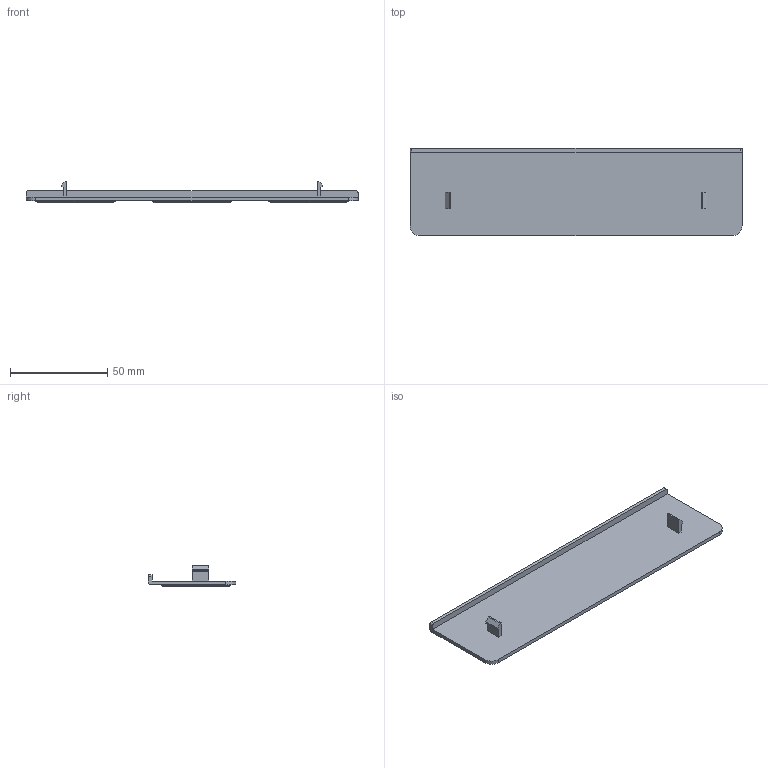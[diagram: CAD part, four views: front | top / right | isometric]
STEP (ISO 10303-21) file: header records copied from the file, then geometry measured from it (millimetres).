
FILE_DESCRIPTION (( 'STEP AP214' ), '1' );
FILE_NAME ('53001.STEP', '2021-08-11T05:53:24', ( '' ), ( '' ), 'SwSTEP 2.0', 'SolidWorks 2017', '' );
FILE_SCHEMA (( 'AUTOMOTIVE_DESIGN' ));
Length unit declared in the file: millimetre
Products named in the file (2): 53001
Bounding box: 171 x 45 x 11.2 mm (x, y, z)
Volume: 20774 mm3; surface area: 17727.8 mm2
Topology: 1 solids, 1 shells, 82 faces, 201 edges, 126 vertices
Faces by surface type: plane 29, cylinder 29, sphere 12, torus 12
Entity records: 2524 total; most frequent: CARTESIAN_POINT 531, DIRECTION 415, ORIENTED_EDGE 402, EDGE_CURVE 201, AXIS2_PLACEMENT_3D 154, VERTEX_POINT 126, LINE 107, VECTOR 107
